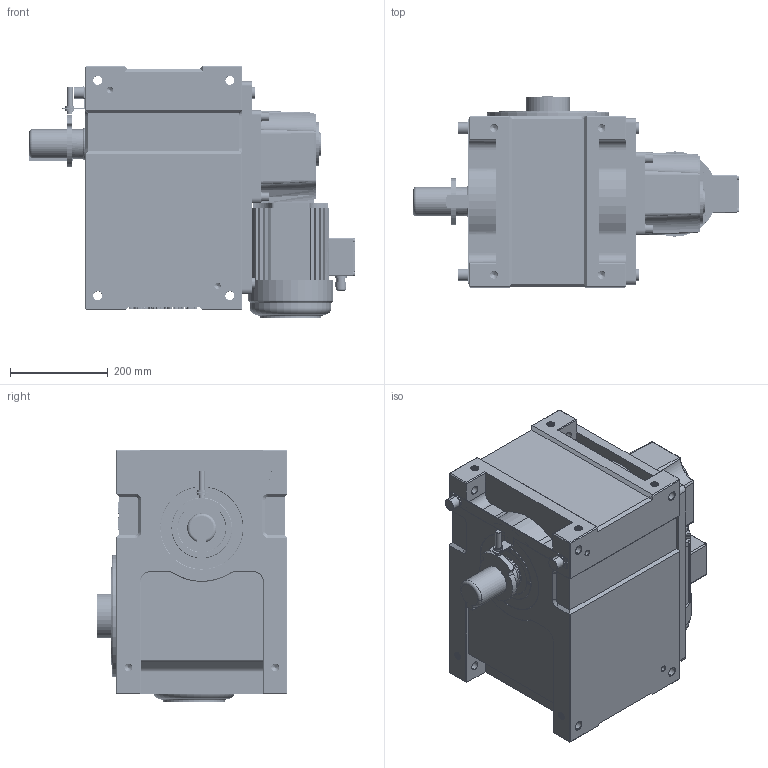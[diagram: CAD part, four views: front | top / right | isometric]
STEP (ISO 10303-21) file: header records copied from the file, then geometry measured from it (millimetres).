
FILE_DESCRIPTION (( 'STEP AP214' ), '1' );
FILE_NAME ('ER-RU180DF英锐凸轮分割器壳体法兰面销孔3D水平直联式右侧ST35(电话15062628977)AA.STEP', '2022-09-19T04:32:30', ( '微软用户' ), ( '微软中国' ), 'SwSTEP 2.0', 'SolidWorks 2017', '' );
FILE_SCHEMA (( 'AUTOMOTIVE_DESIGN' ));
Length unit declared in the file: millimetre
Products named in the file (1): ER-RU180DF英锐凸轮分割器壳体法兰面销孔3D水平直联式右侧ST35(电话15062628977)AA
Bounding box: 665.46 x 390 x 516 mm (x, y, z)
Volume: 62901372.7 mm3; surface area: 1665582.6 mm2
Topology: 3 solids, 9 shells, 2221 faces, 5790 edges, 3719 vertices
Faces by surface type: cylinder 900, plane 724, bspline 353, cone 203, torus 41
Entity records: 157374 total; most frequent: CARTESIAN_POINT 88342, ORIENTED_EDGE 11476, DIRECTION 8599, EDGE_CURVE 5738, VERTEX_POINT 3719, AXIS2_PLACEMENT_3D 2912, VECTOR 2775, LINE 2775
